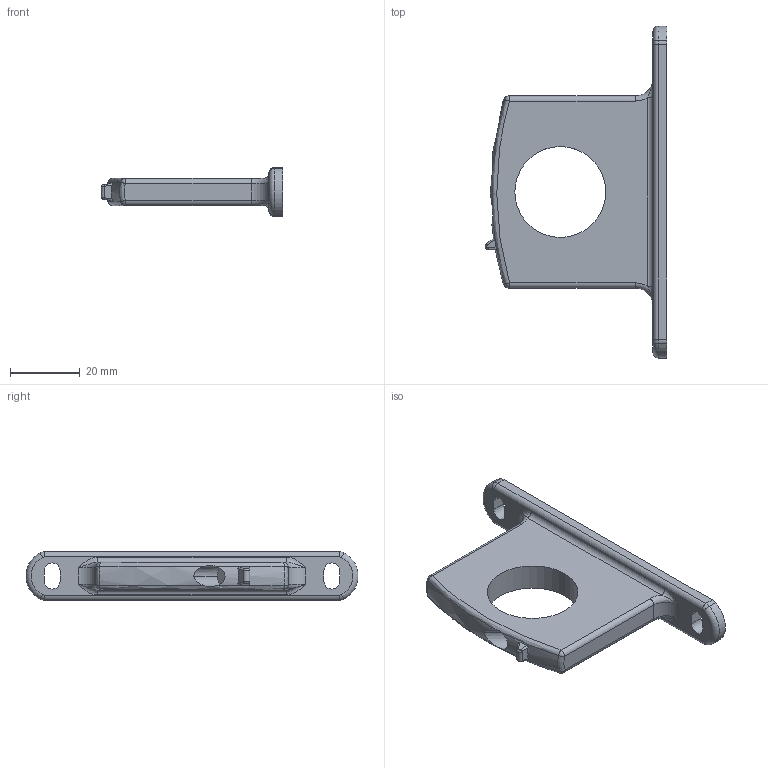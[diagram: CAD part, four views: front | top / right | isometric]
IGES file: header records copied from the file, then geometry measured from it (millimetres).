
Global section: file name: No Iges File Name specified; native system: Autodesk Inventor 2010; preprocessor: AutoDesk Inventor Iges Exporter R2010; author: valotma1; date: 20100823.143223; units: millimetre
Bounding box: 52.01 x 94.95 x 14 mm (x, y, z)
Volume: 19853.6 mm3; surface area: 8349.4 mm2
Topology: 1 solids, 1 shells, 72 faces, 176 edges, 100 vertices
Faces by surface type: bspline 24, cylinder 13, plane 13, revolution 10, torus 8, sphere 4
